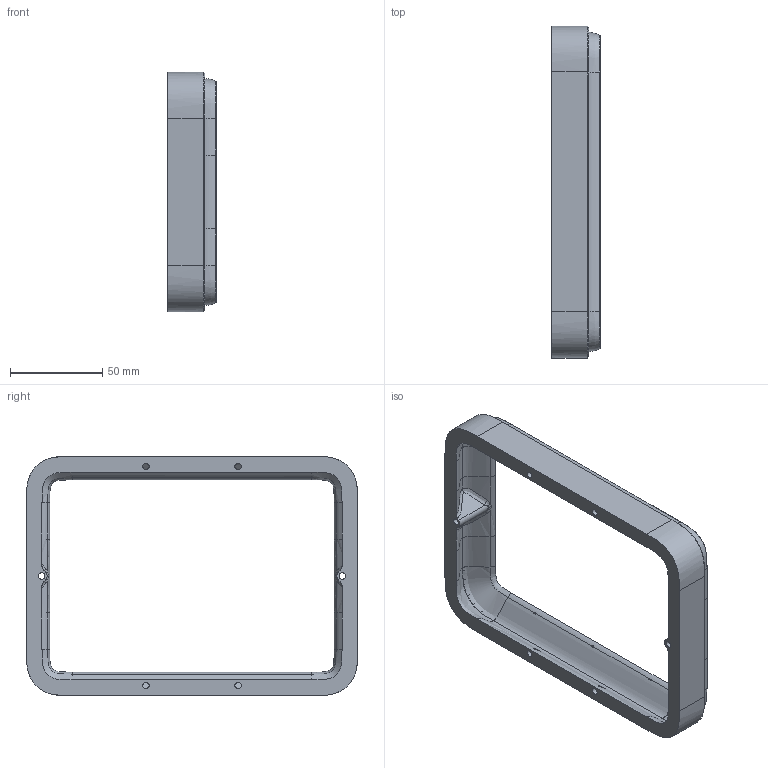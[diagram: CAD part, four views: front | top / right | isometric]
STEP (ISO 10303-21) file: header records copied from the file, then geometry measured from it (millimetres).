
FILE_DESCRIPTION(/* description */ (''),/* implementation_level */ '2;1');
FILE_NAME(/* name */ 'EXTERNAL BACK REACKET.step',/* time_stamp */ '2024-02-28T16:54:51Z',/* author */ (''),/* organization */ (''),/* preprocessor_version */ 'ST-DEVELOPER v20',/* originating_system */ 'Autodesk Translation Framework v12.20.1.177',/* authorisation */ '');
FILE_SCHEMA (('AUTOMOTIVE_DESIGN { 1 0 10303 214 3 1 1 }'));
Length unit declared in the file: millimetre
Products named in the file (1): EXTERNAL BACK REACKET
Bounding box: 26.2 x 180 x 130 mm (x, y, z)
Volume: 79221.2 mm3; surface area: 46591.5 mm2
Topology: 1 solids, 1 shells, 229 faces, 654 edges, 418 vertices
Faces by surface type: bspline 112, cylinder 92, plane 25
Full cylindrical faces by diameter (mm): 2.529 x18, 3.086 x6, 3.5 x6
Entity records: 20190 total; most frequent: CARTESIAN_POINT 15258, ORIENTED_EDGE 1316, EDGE_CURVE 658, DIRECTION 534, VERTEX_POINT 418, B_SPLINE_CURVE_WITH_KNOTS 378, EDGE_LOOP 262, FACE_OUTER_BOUND 229
